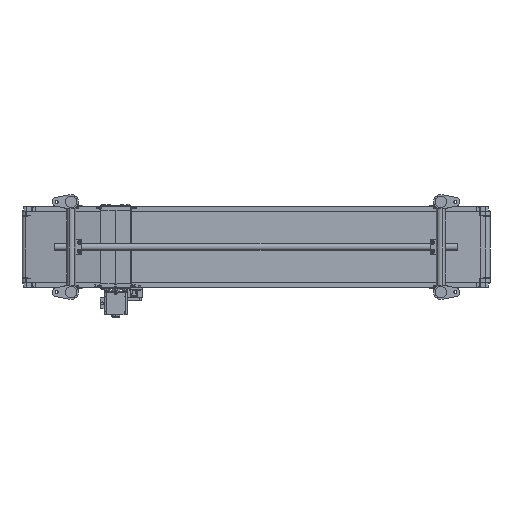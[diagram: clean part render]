
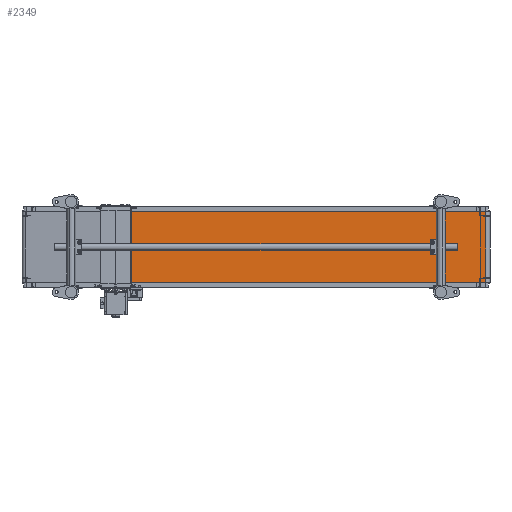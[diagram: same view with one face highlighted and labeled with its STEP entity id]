
A CAD part, front view. The second image highlights one B-rep face of the part: STEP entity #2349.
In plain terms, the highlighted planar face has unit normal (0.023, -1, 0).
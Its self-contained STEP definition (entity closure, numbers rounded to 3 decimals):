
#2349=ADVANCED_FACE('',(#8376),#8375,.F.);
#8375=PLANE('',#27728);
#8376=FACE_OUTER_BOUND('',#27729,.T.);
#27725=CARTESIAN_POINT('',(424.61,-70.236,160.));
#27726=DIRECTION('',(-0.023,1.,0.));
#27727=DIRECTION('',(1.,0.023,0.));
#27728=AXIS2_PLACEMENT_3D('',#27725,#27726,#27727);
#27729=EDGE_LOOP('',(#39091,#39092,#39093,#39094));
#39091=ORIENTED_EDGE('',*,*,#48306,.T.);
#39092=ORIENTED_EDGE('',*,*,#48352,.F.);
#39093=ORIENTED_EDGE('',*,*,#48284,.F.);
#39094=ORIENTED_EDGE('',*,*,#48351,.T.);
#48284=EDGE_CURVE('',#59260,#59267,#59268,.T.);
#48306=EDGE_CURVE('',#59378,#59412,#59419,.T.);
#48351=EDGE_CURVE('',#59260,#59378,#59713,.T.);
#48352=EDGE_CURVE('',#59267,#59412,#59719,.T.);
#59260=VERTEX_POINT('',#90816);
#59267=VERTEX_POINT('',#90821);
#59268=LINE('',#90822,#90823);
#59378=VERTEX_POINT('',#90891);
#59412=VERTEX_POINT('',#90912);
#59419=LINE('',#90917,#90918);
#59713=LINE('',#91081,#91082);
#59719=LINE('',#91084,#91085);
#90816=CARTESIAN_POINT('',(1982.907,-34.195,-150.));
#90821=CARTESIAN_POINT('',(434.607,-70.005,-150.));
#90822=CARTESIAN_POINT('',(1982.907,-34.195,-150.));
#90823=VECTOR('',#90824,1548.714);
#90824=DIRECTION('',(-1.,-0.023,0.));
#90891=CARTESIAN_POINT('',(1982.907,-34.195,150.));
#90912=CARTESIAN_POINT('',(434.607,-70.005,150.));
#90917=CARTESIAN_POINT('',(1982.907,-34.195,150.));
#90918=VECTOR('',#90919,1548.714);
#90919=DIRECTION('',(-1.,-0.023,0.));
#91081=CARTESIAN_POINT('',(1982.907,-34.195,-150.));
#91082=VECTOR('',#91083,300.);
#91083=DIRECTION('',(0.,0.,1.));
#91084=CARTESIAN_POINT('',(434.607,-70.005,-150.));
#91085=VECTOR('',#91086,300.);
#91086=DIRECTION('',(0.,0.,1.));
